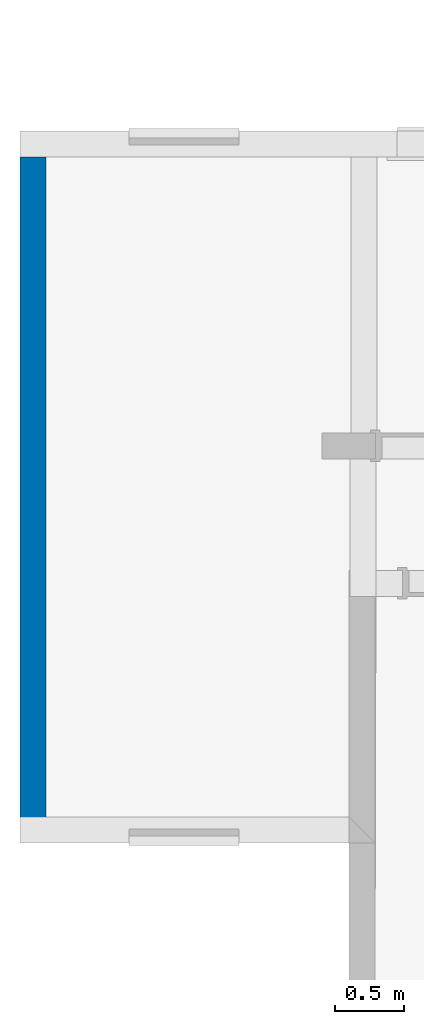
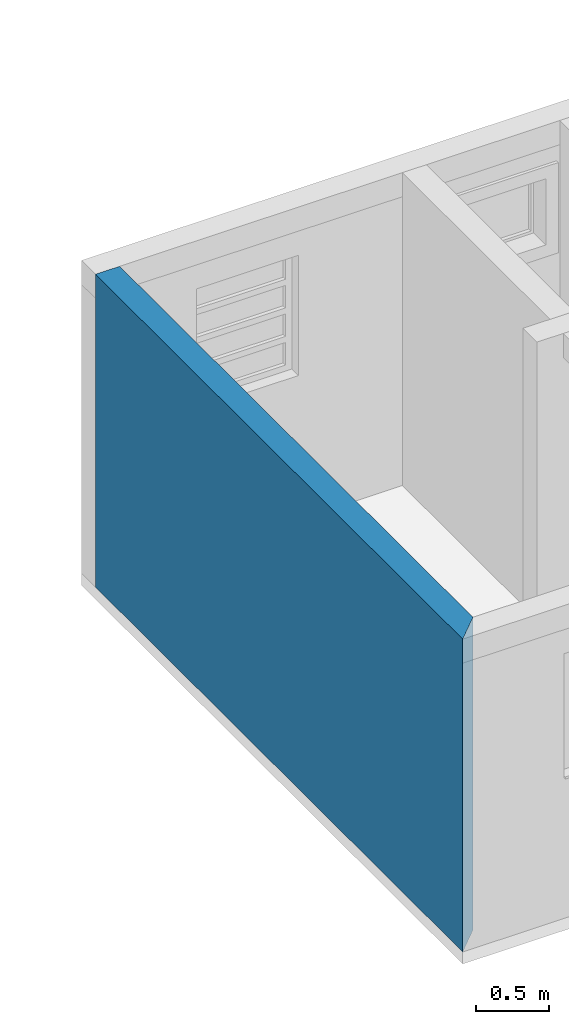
# One storey, part 6 of 43: 1 wall.
"""IFC2X3 building model written with IfcOpenShell, lengths in millimetres."""

from ifc_helpers import new_model, entity, si_unit, converted_unit, derived_unit, money_unit, direction, frame, origin_with_axes, place, context, subcontext, project, spatial, polyline, outline, extrude, material, layer, layer_set, layer_usage, type_object, element, save


model = new_model("IFC2X3")

# Units and contexts
model_context = context("Model", 3, precision=0.01, world=origin_with_axes(), true_north=direction((0.0, 1.0)))
body_context = subcontext(model_context, "Body", "Model", "MODEL_VIEW")
ifc_project = project(units=[si_unit("LENGTHUNIT", "METRE", prefix="MILLI"), si_unit("AREAUNIT", "SQUARE_METRE"), si_unit("VOLUMEUNIT", "CUBIC_METRE"), converted_unit("PLANEANGLEUNIT", "DEGREE", entity("IfcPlaneAngleMeasure", 0.0174532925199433), si_unit("PLANEANGLEUNIT", "RADIAN"), dimensions=[0, 0, 0, 0, 0, 0, 0]), money_unit("USD"), converted_unit("TIMEUNIT", "Year", entity("IfcTimeMeasure", 31557600.0), si_unit("TIMEUNIT", "SECOND"), dimensions=[0, 0, 1, 0, 0, 0, 0]), si_unit("MASSUNIT", "GRAM", prefix="KILO"), si_unit("THERMODYNAMICTEMPERATUREUNIT", "DEGREE_CELSIUS"), si_unit("LUMINOUSINTENSITYUNIT", "LUMEN"), si_unit("ENERGYUNIT", "JOULE", prefix="MEGA"), derived_unit("THERMALCONDUCTANCEUNIT", [(si_unit("POWERUNIT", "WATT"), 1), (si_unit("LENGTHUNIT", "METRE"), -1), (si_unit("THERMODYNAMICTEMPERATUREUNIT", "KELVIN"), -1)]), derived_unit("SPECIFICHEATCAPACITYUNIT", [(si_unit("ENERGYUNIT", "JOULE"), 1), (si_unit("MASSUNIT", "GRAM", prefix="KILO"), -1), (si_unit("THERMODYNAMICTEMPERATUREUNIT", "KELVIN"), -1)]), derived_unit("MASSDENSITYUNIT", [(si_unit("MASSUNIT", "GRAM", prefix="KILO"), 1), (si_unit("VOLUMEUNIT", "CUBIC_METRE"), -1)])], contexts=[model_context])

# Site, building, storey
site_placement = place(None, origin_with_axes())
site = spatial("IfcSite", under=ifc_project, at=site_placement, Name="Local", CompositionType="ELEMENT")
building_placement = place(site_placement, origin_with_axes())
building = spatial("IfcBuilding", under=site, at=building_placement, Name="Construção", CompositionType="ELEMENT")
storey_placement = place(building_placement, origin_with_axes())
storey = spatial("IfcBuildingStorey", under=building, at=storey_placement, Name="Pavimento Tipo", CompositionType="ELEMENT", Elevation=0.0)

# Wall
ifc_material = material(Name="Concreto - Estrutural")
ifc_layer = layer(ifc_material, 190.0, ventilated="UNKNOWN")
ifc_layer_set = layer_set([ifc_layer], Name="Concreto - Estrutural 190")
ifc_layer_usage = layer_usage(ifc_layer_set, "AXIS2", "NEGATIVE", 0.0)
wall_type = type_object("IfcWallType", Name="Concreto - Estrutural 190", PredefinedType="NOTDEFINED")
wall_placement = place(storey_placement, frame((55307.434598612, -1757.538479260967, 0.0), z_axis=(0.0, 0.0, 1.0), x_axis=(0.0, -1.0, 0.0)))
element("IfcWallStandardCase", 1, at=wall_placement, inside=storey, type_object=wall_type, material=ifc_layer_usage, Name="Apartamento 3 - Parede-001", context=body_context, shape_type="SweptSolid", body=[
    extrude(outline(polyline([(0.0, -189.9999999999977), (4999.996384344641, -189.9999999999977), (4809.999999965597, 0.0), (0.0, 0.0), (0.0, -189.9999999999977)])), origin_with_axes(), (0.0, 0.0, 1.0), 2600.0),
])

save(model, "model.ifc")
